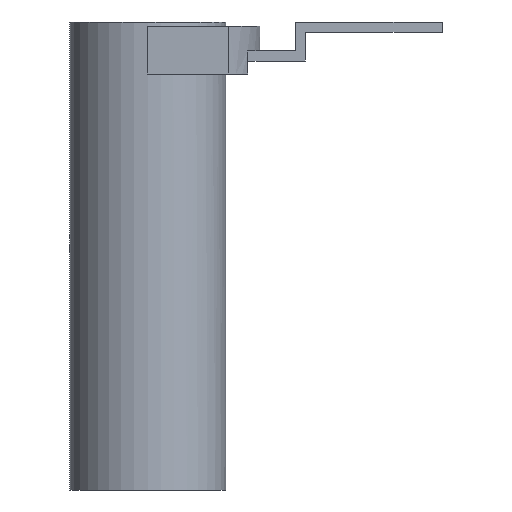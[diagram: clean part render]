
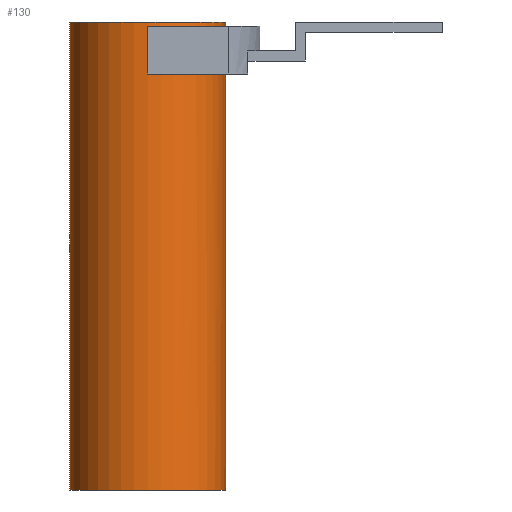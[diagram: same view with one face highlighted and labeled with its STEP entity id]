
A CAD part, front view. The second image highlights one B-rep face of the part: STEP entity #130.
In plain terms, the highlighted cylindrical face has radius 9 mm (diameter 18 mm), a partial arc.
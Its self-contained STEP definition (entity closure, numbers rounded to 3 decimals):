
#113=CYLINDRICAL_SURFACE('',#705,9.);
#130=ADVANCED_FACE('',(#183),#113,.T.);
#183=FACE_OUTER_BOUND('',#210,.T.);
#210=EDGE_LOOP('',(#317,#318,#319,#320,#321,#322,#323,#324,#325,#326));
#240=CIRCLE('',#685,9.);
#241=CIRCLE('',#688,9.);
#246=CIRCLE('',#698,9.);
#249=CIRCLE('',#703,9.);
#250=CIRCLE('',#704,9.);
#317=ORIENTED_EDGE('',*,*,#512,.F.);
#318=ORIENTED_EDGE('',*,*,#517,.F.);
#319=ORIENTED_EDGE('',*,*,#518,.T.);
#320=ORIENTED_EDGE('',*,*,#515,.T.);
#321=ORIENTED_EDGE('',*,*,#519,.F.);
#322=ORIENTED_EDGE('',*,*,#513,.F.);
#323=ORIENTED_EDGE('',*,*,#498,.F.);
#324=ORIENTED_EDGE('',*,*,#495,.F.);
#325=ORIENTED_EDGE('',*,*,#494,.F.);
#326=ORIENTED_EDGE('',*,*,#508,.F.);
#436=VERTEX_POINT('',#930);
#438=VERTEX_POINT('',#934);
#439=VERTEX_POINT('',#938);
#441=VERTEX_POINT('',#944);
#446=VERTEX_POINT('',#961);
#448=VERTEX_POINT('',#969);
#449=VERTEX_POINT('',#973);
#450=VERTEX_POINT('',#975);
#451=VERTEX_POINT('',#977);
#452=VERTEX_POINT('',#979);
#494=EDGE_CURVE('',#438,#436,#240,.T.);
#495=EDGE_CURVE('',#436,#439,#574,.T.);
#498=EDGE_CURVE('',#439,#441,#241,.T.);
#508=EDGE_CURVE('',#446,#438,#584,.T.);
#512=EDGE_CURVE('',#448,#446,#246,.T.);
#513=EDGE_CURVE('',#441,#449,#586,.T.);
#515=EDGE_CURVE('',#451,#450,#587,.T.);
#517=EDGE_CURVE('',#452,#448,#588,.T.);
#518=EDGE_CURVE('',#452,#451,#249,.T.);
#519=EDGE_CURVE('',#449,#450,#250,.T.);
#574=LINE('',#937,#629);
#584=LINE('',#963,#639);
#586=LINE('',#972,#641);
#587=LINE('',#976,#642);
#588=LINE('',#980,#643);
#629=VECTOR('',#759,1.);
#639=VECTOR('',#783,1.);
#641=VECTOR('',#797,1.);
#642=VECTOR('',#800,1.);
#643=VECTOR('',#803,1.);
#685=AXIS2_PLACEMENT_3D('',#935,#755,#756);
#688=AXIS2_PLACEMENT_3D('',#943,#764,#765);
#698=AXIS2_PLACEMENT_3D('',#970,#793,#794);
#703=AXIS2_PLACEMENT_3D('',#982,#806,#807);
#704=AXIS2_PLACEMENT_3D('',#983,#808,#809);
#705=AXIS2_PLACEMENT_3D('',#984,#810,#811);
#755=DIRECTION('',(0.,0.,1.));
#756=DIRECTION('',(-1.,0.,0.));
#759=DIRECTION('',(0.,0.,1.));
#764=DIRECTION('',(0.,0.,1.));
#765=DIRECTION('',(0.565,-0.825,0.));
#783=DIRECTION('',(0.,0.,-1.));
#793=DIRECTION('',(0.,0.,-1.));
#794=DIRECTION('',(-1.,0.,0.));
#797=DIRECTION('',(0.,0.,-1.));
#800=DIRECTION('',(0.,0.,-1.));
#803=DIRECTION('',(0.,0.,-1.));
#806=DIRECTION('',(0.,0.,-1.));
#807=DIRECTION('',(0.,1.,0.));
#808=DIRECTION('',(0.,0.,-1.));
#809=DIRECTION('',(0.,1.,0.));
#810=DIRECTION('',(0.,0.,-1.));
#811=DIRECTION('',(0.,-1.,0.));
#930=CARTESIAN_POINT('',(6.708,-6.,48.));
#934=CARTESIAN_POINT('',(0.,-9.,48.));
#935=CARTESIAN_POINT('',(0.,0.,48.));
#937=CARTESIAN_POINT('',(6.708,-6.,47.98));
#938=CARTESIAN_POINT('',(6.708,-6.,50.5));
#943=CARTESIAN_POINT('',(0.,0.,50.5));
#944=CARTESIAN_POINT('',(9.,0.,50.5));
#961=CARTESIAN_POINT('',(0.,-9.,53.5));
#963=CARTESIAN_POINT('',(0.,-9.,54.02));
#969=CARTESIAN_POINT('',(9.,0.,53.5));
#970=CARTESIAN_POINT('',(0.,0.,53.5));
#972=CARTESIAN_POINT('',(9.,0.,0.));
#973=CARTESIAN_POINT('',(9.,0.,0.));
#975=CARTESIAN_POINT('',(-9.,0.,0.));
#976=CARTESIAN_POINT('',(-9.,0.,0.));
#977=CARTESIAN_POINT('',(-9.,0.,54.));
#979=CARTESIAN_POINT('',(9.,0.,54.));
#980=CARTESIAN_POINT('',(9.,0.,0.));
#982=CARTESIAN_POINT('',(0.,0.,54.));
#983=CARTESIAN_POINT('',(0.,0.,0.));
#984=CARTESIAN_POINT('',(0.,0.,54.));
